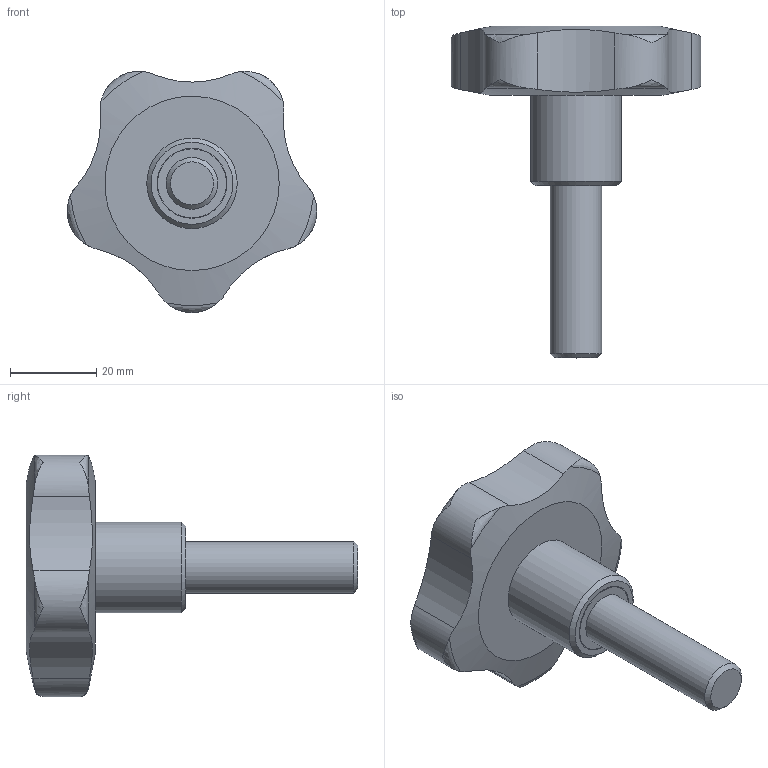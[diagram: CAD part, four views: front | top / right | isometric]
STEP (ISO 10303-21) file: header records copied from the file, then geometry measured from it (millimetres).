
FILE_DESCRIPTION( ( 'STEP AP203' ), '1' );
FILE_NAME( 'C:/Temp/Ganter_Step_05_03_2020/data/2_2/gn_5337_4/gn_5337_4_s/Star knob GN 5337.4-60-M12-40.stp', '2020-03-05T12:09:52', ( 'License CC BY-ND 4.0' ), ( 'CADENAS' ), ' ', 'PARTsolutions', ' ' );
FILE_SCHEMA( ( 'CONFIG_CONTROL_DESIGN' ) );
Length unit declared in the file: millimetre
Products named in the file (1): _Star knob GN 5337.4-60-M12-40
Bounding box: 57.94 x 77 x 55.99 mm (x, y, z)
Volume: 44942.2 mm3; surface area: 9735.8 mm2
Topology: 1 solids, 1 shells, 34 faces, 90 edges, 61 vertices
Faces by surface type: cylinder 14, torus 10, plane 5, cone 3, bspline 1, sphere 1
Full cylindrical faces by diameter (mm): 12 x1, 16 x1, 16.2 x1, 21 x1
Entity records: 1493 total; most frequent: CARTESIAN_POINT 730, ORIENTED_EDGE 154, DIRECTION 122, EDGE_CURVE 77, VERTEX_POINT 58, AXIS2_PLACEMENT_3D 56, EDGE_LOOP 46, B_SPLINE_CURVE_WITH_KNOTS 45
